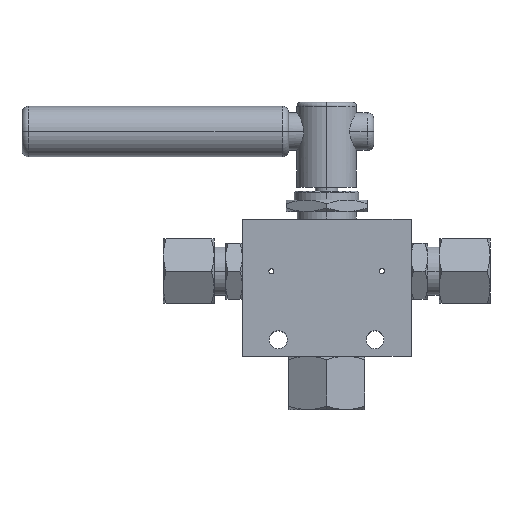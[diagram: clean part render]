
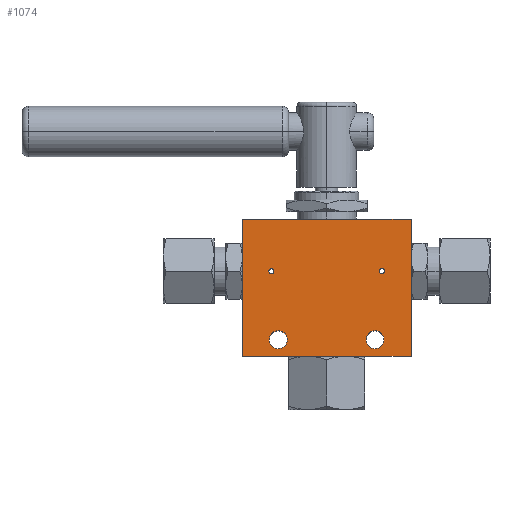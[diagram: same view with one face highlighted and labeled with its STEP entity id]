
A CAD part, top view. The second image highlights one B-rep face of the part: STEP entity #1074.
In plain terms, the highlighted planar face has unit normal (0, 0, 1).
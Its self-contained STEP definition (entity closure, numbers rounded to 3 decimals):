
#27 = LINE ( 'NONE', #3009, #1637 ) ;
#86 = VERTEX_POINT ( 'NONE', #782 ) ;
#221 = EDGE_LOOP ( 'NONE', ( #4814, #4117 ) ) ;
#289 = EDGE_CURVE ( 'NONE', #6233, #4291, #4547, .T. ) ;
#300 = DIRECTION ( 'NONE',  ( 0., 0., 1. ) ) ;
#407 = VECTOR ( 'NONE', #4027, 1000. ) ;
#431 = ORIENTED_EDGE ( 'NONE', *, *, #2215, .F. ) ;
#463 = EDGE_CURVE ( 'NONE', #2417, #5112, #2043, .T. ) ;
#614 = CARTESIAN_POINT ( 'NONE',  ( -19.05, -20.5, 19. ) ) ;
#718 = VERTEX_POINT ( 'NONE', #2904 ) ;
#725 = VERTEX_POINT ( 'NONE', #1169 ) ;
#782 = CARTESIAN_POINT ( 'NONE',  ( 33.25, 27., 19. ) ) ;
#874 = ORIENTED_EDGE ( 'NONE', *, *, #2035, .T. ) ;
#907 = CARTESIAN_POINT ( 'NONE',  ( -21.75, 6.5, 19. ) ) ;
#1013 = CIRCLE ( 'NONE', #1834, 3.5 ) ;
#1028 = AXIS2_PLACEMENT_3D ( 'NONE', #1034, #2412, #5346 ) ;
#1034 = CARTESIAN_POINT ( 'NONE',  ( 19.05, -20.5, 19. ) ) ;
#1070 = DIRECTION ( 'NONE',  ( 0., 0., 1. ) ) ;
#1074 = ADVANCED_FACE ( 'NONE', ( #3746, #6137, #1760, #6191, #5135 ), #4232, .F. ) ;
#1099 = AXIS2_PLACEMENT_3D ( 'NONE', #1553, #1070, #1943 ) ;
#1107 = CARTESIAN_POINT ( 'NONE',  ( 19.05, -20.5, 19. ) ) ;
#1169 = CARTESIAN_POINT ( 'NONE',  ( -20.75, 6.5, 19. ) ) ;
#1239 = EDGE_CURVE ( 'NONE', #4291, #86, #5833, .T. ) ;
#1315 = DIRECTION ( 'NONE',  ( 1., 0., 0. ) ) ;
#1389 = CARTESIAN_POINT ( 'NONE',  ( -19.05, -20.5, 19. ) ) ;
#1413 = CIRCLE ( 'NONE', #1099, 1. ) ;
#1417 = CIRCLE ( 'NONE', #3800, 1. ) ;
#1553 = CARTESIAN_POINT ( 'NONE',  ( -21.75, 6.5, 19. ) ) ;
#1637 = VECTOR ( 'NONE', #4507, 1000. ) ;
#1640 = CIRCLE ( 'NONE', #6411, 1. ) ;
#1743 = EDGE_CURVE ( 'NONE', #725, #2675, #1413, .T. ) ;
#1760 = FACE_BOUND ( 'NONE', #2917, .T. ) ;
#1804 = ORIENTED_EDGE ( 'NONE', *, *, #463, .F. ) ;
#1834 = AXIS2_PLACEMENT_3D ( 'NONE', #1389, #5445, #2447 ) ;
#1843 = ORIENTED_EDGE ( 'NONE', *, *, #289, .T. ) ;
#1943 = DIRECTION ( 'NONE',  ( 1., 0., 0. ) ) ;
#2035 = EDGE_CURVE ( 'NONE', #6352, #6233, #27, .T. ) ;
#2038 = VERTEX_POINT ( 'NONE', #2488 ) ;
#2041 = DIRECTION ( 'NONE',  ( 1., 0., 0. ) ) ;
#2043 = CIRCLE ( 'NONE', #4006, 3.5 ) ;
#2215 = EDGE_CURVE ( 'NONE', #718, #2038, #2971, .T. ) ;
#2376 = CIRCLE ( 'NONE', #4033, 1. ) ;
#2392 = CARTESIAN_POINT ( 'NONE',  ( -33.25, 27., 19. ) ) ;
#2412 = DIRECTION ( 'NONE',  ( 0., 0., 1. ) ) ;
#2417 = VERTEX_POINT ( 'NONE', #6177 ) ;
#2447 = DIRECTION ( 'NONE',  ( 1., 0., 0. ) ) ;
#2488 = CARTESIAN_POINT ( 'NONE',  ( -22.55, -20.5, 19. ) ) ;
#2498 = CARTESIAN_POINT ( 'NONE',  ( 22.75, 6.5, 19. ) ) ;
#2520 = EDGE_CURVE ( 'NONE', #2038, #718, #1013, .T. ) ;
#2666 = VERTEX_POINT ( 'NONE', #5544 ) ;
#2675 = VERTEX_POINT ( 'NONE', #6146 ) ;
#2726 = CARTESIAN_POINT ( 'NONE',  ( 21.75, 6.5, 19. ) ) ;
#2760 = CARTESIAN_POINT ( 'NONE',  ( 33.25, -27., 19. ) ) ;
#2870 = CARTESIAN_POINT ( 'NONE',  ( 33.25, -27., 19. ) ) ;
#2904 = CARTESIAN_POINT ( 'NONE',  ( -15.55, -20.5, 19. ) ) ;
#2917 = EDGE_LOOP ( 'NONE', ( #2997, #4982 ) ) ;
#2950 = ORIENTED_EDGE ( 'NONE', *, *, #1239, .T. ) ;
#2971 = CIRCLE ( 'NONE', #3293, 3.5 ) ;
#2997 = ORIENTED_EDGE ( 'NONE', *, *, #5363, .F. ) ;
#3009 = CARTESIAN_POINT ( 'NONE',  ( -33.25, -27., 19. ) ) ;
#3054 = CARTESIAN_POINT ( 'NONE',  ( 15.55, -20.5, 19. ) ) ;
#3080 = EDGE_LOOP ( 'NONE', ( #5205, #1804 ) ) ;
#3084 = DIRECTION ( 'NONE',  ( 0., 0., 1. ) ) ;
#3191 = EDGE_CURVE ( 'NONE', #3267, #2666, #1417, .T. ) ;
#3267 = VERTEX_POINT ( 'NONE', #2498 ) ;
#3293 = AXIS2_PLACEMENT_3D ( 'NONE', #614, #3635, #5055 ) ;
#3310 = CARTESIAN_POINT ( 'NONE',  ( -33.25, -27., 19. ) ) ;
#3445 = LINE ( 'NONE', #3513, #407 ) ;
#3513 = CARTESIAN_POINT ( 'NONE',  ( -33.25, 27., 19. ) ) ;
#3635 = DIRECTION ( 'NONE',  ( 0., 0., 1. ) ) ;
#3746 = FACE_OUTER_BOUND ( 'NONE', #5033, .T. ) ;
#3775 = CARTESIAN_POINT ( 'NONE',  ( 21.75, 6.5, 19. ) ) ;
#3776 = ORIENTED_EDGE ( 'NONE', *, *, #2520, .F. ) ;
#3800 = AXIS2_PLACEMENT_3D ( 'NONE', #3775, #5770, #1315 ) ;
#3833 = DIRECTION ( 'NONE',  ( 1., 0., 0. ) ) ;
#4006 = AXIS2_PLACEMENT_3D ( 'NONE', #1107, #3084, #5058 ) ;
#4027 = DIRECTION ( 'NONE',  ( -1., 0., 0. ) ) ;
#4033 = AXIS2_PLACEMENT_3D ( 'NONE', #2726, #5267, #3833 ) ;
#4117 = ORIENTED_EDGE ( 'NONE', *, *, #1743, .F. ) ;
#4134 = CIRCLE ( 'NONE', #1028, 3.5 ) ;
#4232 = PLANE ( 'NONE',  #5052 ) ;
#4291 = VERTEX_POINT ( 'NONE', #2870 ) ;
#4507 = DIRECTION ( 'NONE',  ( 0., -1., 0. ) ) ;
#4547 = LINE ( 'NONE', #4997, #5766 ) ;
#4593 = ORIENTED_EDGE ( 'NONE', *, *, #5071, .T. ) ;
#4628 = DIRECTION ( 'NONE',  ( 0., 0., -1. ) ) ;
#4660 = DIRECTION ( 'NONE',  ( -1., 0., 0. ) ) ;
#4811 = DIRECTION ( 'NONE',  ( 0., 1., 0. ) ) ;
#4814 = ORIENTED_EDGE ( 'NONE', *, *, #6297, .F. ) ;
#4982 = ORIENTED_EDGE ( 'NONE', *, *, #3191, .F. ) ;
#4997 = CARTESIAN_POINT ( 'NONE',  ( -33.25, -27., 19. ) ) ;
#5033 = EDGE_LOOP ( 'NONE', ( #2950, #4593, #874, #1843 ) ) ;
#5052 = AXIS2_PLACEMENT_3D ( 'NONE', #5738, #4628, #4660 ) ;
#5055 = DIRECTION ( 'NONE',  ( 1., 0., 0. ) ) ;
#5058 = DIRECTION ( 'NONE',  ( 1., 0., 0. ) ) ;
#5071 = EDGE_CURVE ( 'NONE', #86, #6352, #3445, .T. ) ;
#5112 = VERTEX_POINT ( 'NONE', #3054 ) ;
#5135 = FACE_BOUND ( 'NONE', #3080, .T. ) ;
#5205 = ORIENTED_EDGE ( 'NONE', *, *, #5605, .F. ) ;
#5267 = DIRECTION ( 'NONE',  ( 0., 0., 1. ) ) ;
#5346 = DIRECTION ( 'NONE',  ( 1., 0., 0. ) ) ;
#5363 = EDGE_CURVE ( 'NONE', #2666, #3267, #2376, .T. ) ;
#5445 = DIRECTION ( 'NONE',  ( 0., 0., 1. ) ) ;
#5544 = CARTESIAN_POINT ( 'NONE',  ( 20.75, 6.5, 19. ) ) ;
#5605 = EDGE_CURVE ( 'NONE', #5112, #2417, #4134, .T. ) ;
#5738 = CARTESIAN_POINT ( 'NONE',  ( 0., 0., 19. ) ) ;
#5766 = VECTOR ( 'NONE', #2041, 1000. ) ;
#5770 = DIRECTION ( 'NONE',  ( 0., 0., 1. ) ) ;
#5795 = DIRECTION ( 'NONE',  ( 1., 0., 0. ) ) ;
#5833 = LINE ( 'NONE', #2760, #5979 ) ;
#5979 = VECTOR ( 'NONE', #4811, 1000. ) ;
#6137 = FACE_BOUND ( 'NONE', #221, .T. ) ;
#6146 = CARTESIAN_POINT ( 'NONE',  ( -22.75, 6.5, 19. ) ) ;
#6177 = CARTESIAN_POINT ( 'NONE',  ( 22.55, -20.5, 19. ) ) ;
#6191 = FACE_BOUND ( 'NONE', #6250, .T. ) ;
#6233 = VERTEX_POINT ( 'NONE', #3310 ) ;
#6250 = EDGE_LOOP ( 'NONE', ( #3776, #431 ) ) ;
#6297 = EDGE_CURVE ( 'NONE', #2675, #725, #1640, .T. ) ;
#6352 = VERTEX_POINT ( 'NONE', #2392 ) ;
#6411 = AXIS2_PLACEMENT_3D ( 'NONE', #907, #300, #5795 ) ;
